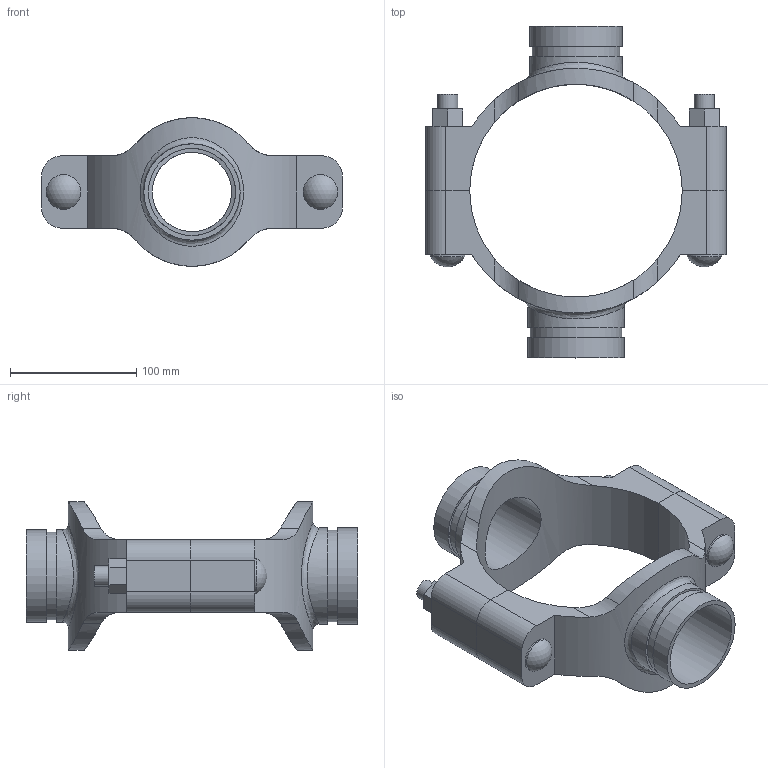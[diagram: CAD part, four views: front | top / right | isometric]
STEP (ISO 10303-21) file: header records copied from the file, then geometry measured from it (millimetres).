
FILE_DESCRIPTION(/* description */ ('VIC MECH-T BRANCH OUTLET CROSS STYLE 920N (GRVD)','CAx-IF Rec.Pracs.---Representation and Presentation of Product Manufacturing Information (PMI)---4.0---2014-10-13'),/* implementation_level */ '2;1');
FILE_NAME(/* name */ 'C:\Users\Vjadhav\AppData\Roaming\Autodesk\ApplicationPlugins\Back Up\Victaulic_IPS_Mechanical-Cross Outlet_Style 920N (OGS)\Victaulic_IPS_Mechanical-Cross Outlet_06.0x02.5x02.5 (76.1) (150x65x65).stp',/* time_stamp */ '2020-08-06T19:44:52+05:00',/* author */ ('Vjadhav'),/* organization */ ('Victaulic'),/* preprocessor_version */ 'ST-DEVELOPER v17.2',/* originating_system */ 'Autodesk Inventor 2019',/* authorisation */ '');
FILE_SCHEMA (('AP242_MANAGED_MODEL_BASED_3D_ENGINEERING_MIM_LF { 1 0 10303 442 1 1 4 }'));
Length unit declared in the file: inch
Products named in the file (3): 920NG-06.0x02.5x02.5 (76.1); 920G-06.0x02.5; 920G-06.0x02.5 (76.1)
Assembly tree (2 placements, depth 2):
  920NG-06.0x02.5x02.5 (76.1)
    920G-06.0x02.5
    920G-06.0x02.5 (76.1)
Bounding box: 238.25 x 262.64 x 117.59 mm (x, y, z)
Volume: 799226.1 mm3; surface area: 175808.7 mm2
Topology: 2 solids, 2 shells, 104 faces, 262 edges, 178 vertices
Faces by surface type: plane 54, cylinder 46, sphere 2, bspline 2
Full cylindrical faces by diameter (mm): 15.875 x4, 27.381 x2, 62.738 x1, 68.986 x1, 69.088 x1, 72.263 x1, 73.025 x2, 76.2 x2
Entity records: 4198 total; most frequent: CARTESIAN_POINT 1425, DIRECTION 532, ORIENTED_EDGE 524, EDGE_CURVE 262, AXIS2_PLACEMENT_3D 193, VERTEX_POINT 178, LINE 146, VECTOR 146
